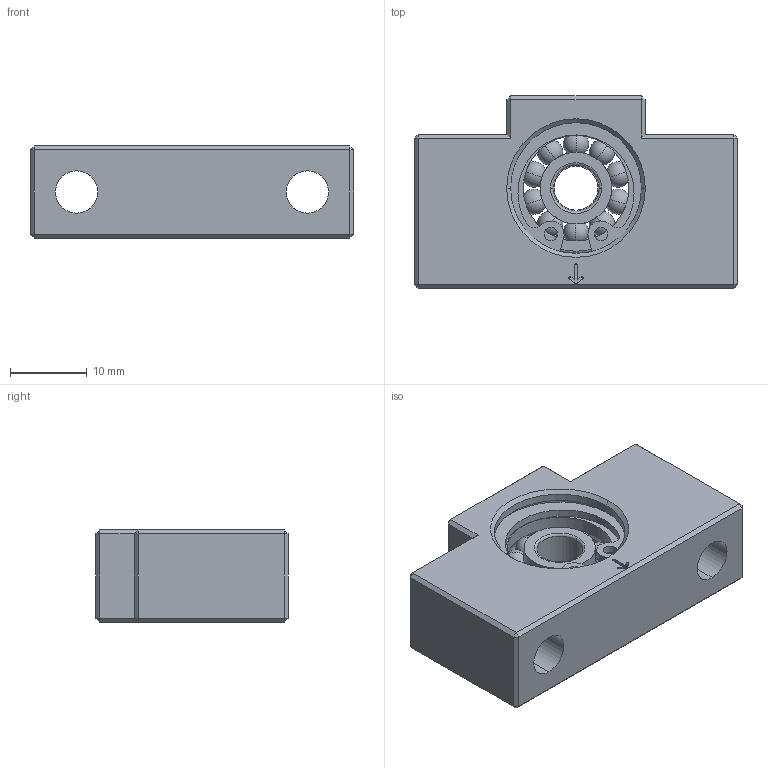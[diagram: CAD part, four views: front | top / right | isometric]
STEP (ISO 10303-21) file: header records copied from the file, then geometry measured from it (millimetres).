
FILE_DESCRIPTION (( 'STEP AP203' ), '1' );
FILE_NAME ('GTN06.STEP', '2013-10-29T06:28:53', ( 'user' ), ( '' ), 'SwSTEP 2.0', 'SolidWorks 2013', '' );
FILE_SCHEMA (( 'CONFIG_CONTROL_DESIGN' ));
Length unit declared in the file: millimetre
Products named in the file (1): GTN06
Bounding box: 42 x 25 x 12 mm (x, y, z)
Surface area: 5523.2 mm2 (no closed solid volume)
Topology: 0 solids, 4 shells, 160 faces, 584 edges, 380 vertices
Faces by surface type: plane 62, cylinder 59, sphere 20, torus 15, cone 4
Entity records: 6459 total; most frequent: CARTESIAN_POINT 1865, DIRECTION 950, ORIENTED_EDGE 935, EDGE_CURVE 524, AXIS2_PLACEMENT_3D 385, VERTEX_POINT 340, CIRCLE 224, LINE 180
